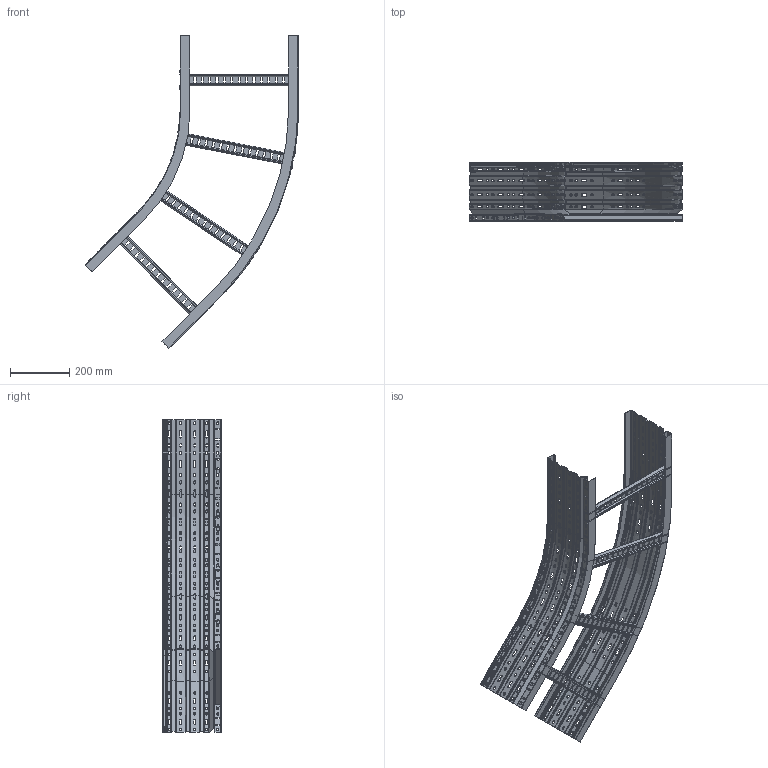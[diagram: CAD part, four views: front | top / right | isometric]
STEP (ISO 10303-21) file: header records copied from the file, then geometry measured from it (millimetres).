
FILE_DESCRIPTION (( 'STEP AP203' ), '1' );
FILE_NAME ('óãîë íà 45 Í200 ëåñòíè÷íûé.STEP', '2015-01-23T07:30:38', ( '' ), ( '' ), 'SwSTEP 2.0', 'SolidWorks 2014', '' );
FILE_SCHEMA (( 'CONFIG_CONTROL_DESIGN' ));
Length unit declared in the file: millimetre
Products named in the file (4): 呧翲歑鍙 45 碴麔謥臇鴇 200; Ëîíæåðîí  45  íàðóæíèé ñìåùåíàÿ ïåðôîðàöèÿ 200_400; Traversino 39x19x1.5_1_400:(1,5); óãîë íà 45 Í200 ëåñòíè÷íûé
Assembly tree (6 placements, depth 2):
  óãîë íà 45 Í200 ëåñòíè÷íûé
    呧翲歑鍙 45 碴麔謥臇鴇 200
    Ëîíæåðîí  45  íàðóæíèé ñìåùåíàÿ ïåðôîðàöèÿ 200_400
    Traversino 39x19x1.5_1_400:(1,5)  x4
Bounding box: 722.56 x 197.9 x 1058.23 mm (x, y, z)
Volume: 1168963.1 mm3; surface area: 1594897.7 mm2
Topology: 6 solids, 6 shells, 2868 faces, 8100 edges, 5228 vertices
Faces by surface type: cylinder 1410, plane 1362, torus 88, cone 8
Entity records: 85564 total; most frequent: CARTESIAN_POINT 27807, ORIENTED_EDGE 12288, DIRECTION 11642, EDGE_CURVE 6144, AXIS2_PLACEMENT_3D 4187, VERTEX_POINT 4004, VECTOR 3268, LINE 3268
